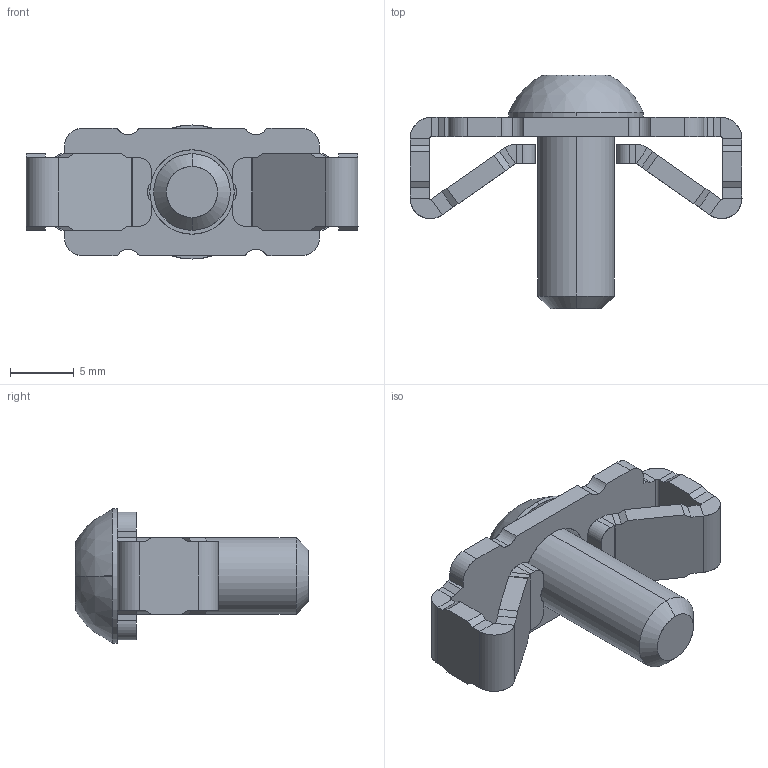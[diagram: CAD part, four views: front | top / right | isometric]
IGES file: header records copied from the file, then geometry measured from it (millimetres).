
Start section: SolidWorks IGES file using analytic representation for surfaces
Global section: file name: C:\Users\admin\Desktop\IGES\J3S.igs; native system: SolidWorks 2014; preprocessor: SolidWorks 2014; author: admin_pc; date: 170524.165944; units: millimetre
Bounding box: 26 x 18.3 x 10.5 mm (x, y, z)
Surface area: 1488.6 mm2 (no closed solid volume)
Topology: 0 solids, 0 shells, 151 faces, 1232 edges, 1230 vertices
Faces by surface type: bspline 111, revolution 40
